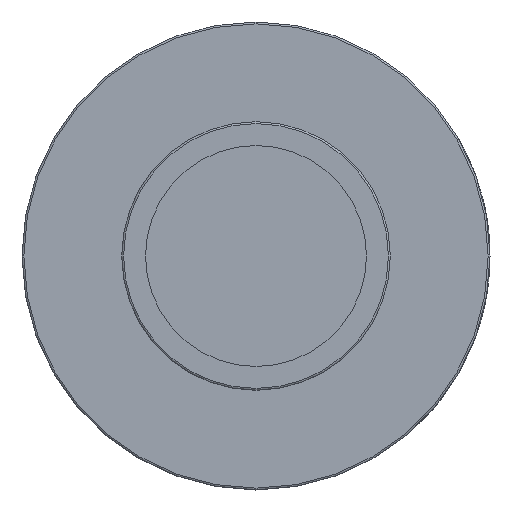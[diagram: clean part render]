
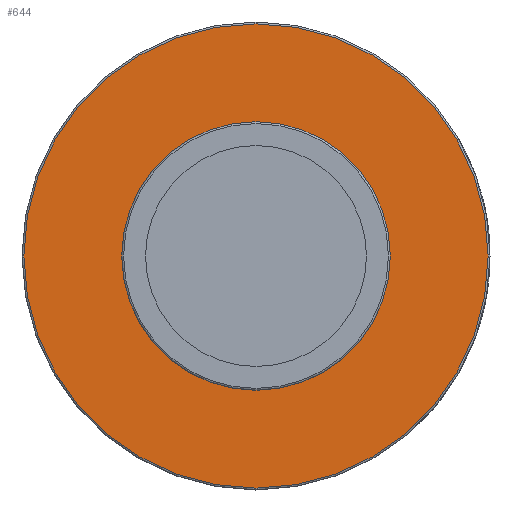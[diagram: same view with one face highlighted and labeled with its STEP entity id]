
A CAD part, left-side view. The second image highlights one B-rep face of the part: STEP entity #644.
In plain terms, the highlighted planar face has unit normal (-1, 0, 0).
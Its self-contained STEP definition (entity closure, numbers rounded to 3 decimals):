
#644 = ADVANCED_FACE( '', ( #1337, #1338 ), #1339, .T. );
#1337 = FACE_OUTER_BOUND( '', #3265, .T. );
#1338 = FACE_BOUND( '', #3266, .T. );
#1339 = PLANE( '', #3267 );
#3265 = EDGE_LOOP( '', ( #5299 ) );
#3266 = EDGE_LOOP( '', ( #5300 ) );
#3267 = AXIS2_PLACEMENT_3D( '', #5301, #5302, #5303 );
#5299 = ORIENTED_EDGE( '', *, *, #6093, .T. );
#5300 = ORIENTED_EDGE( '', *, *, #5577, .F. );
#5301 = CARTESIAN_POINT( '', ( 33.147, 0., 36.449 ) );
#5302 = DIRECTION( '', ( -1., 0., 0. ) );
#5303 = DIRECTION( '', ( 0., 0., 1. ) );
#5577 = EDGE_CURVE( '', #6460, #6460, #6461, .T. );
#6093 = EDGE_CURVE( '', #7203, #7203, #7204, .T. );
#6460 = VERTEX_POINT( '', #8107 );
#6461 = CIRCLE( '', #8108, 36.449 );
#7203 = VERTEX_POINT( '', #10031 );
#7204 = CIRCLE( '', #10032, 62.992 );
#8107 = CARTESIAN_POINT( '', ( 33.147, 0., 36.449 ) );
#8108 = AXIS2_PLACEMENT_3D( '', #10145, #10146, #10147 );
#10031 = CARTESIAN_POINT( '', ( 33.147, 0., 62.992 ) );
#10032 = AXIS2_PLACEMENT_3D( '', #10196, #10197, #10198 );
#10145 = CARTESIAN_POINT( '', ( 33.147, 0., 0. ) );
#10146 = DIRECTION( '', ( -1., 0., 0. ) );
#10147 = DIRECTION( '', ( 0., 0., 1. ) );
#10196 = CARTESIAN_POINT( '', ( 33.147, 0., 0. ) );
#10197 = DIRECTION( '', ( -1., 0., 0. ) );
#10198 = DIRECTION( '', ( 0., 0., 1. ) );
